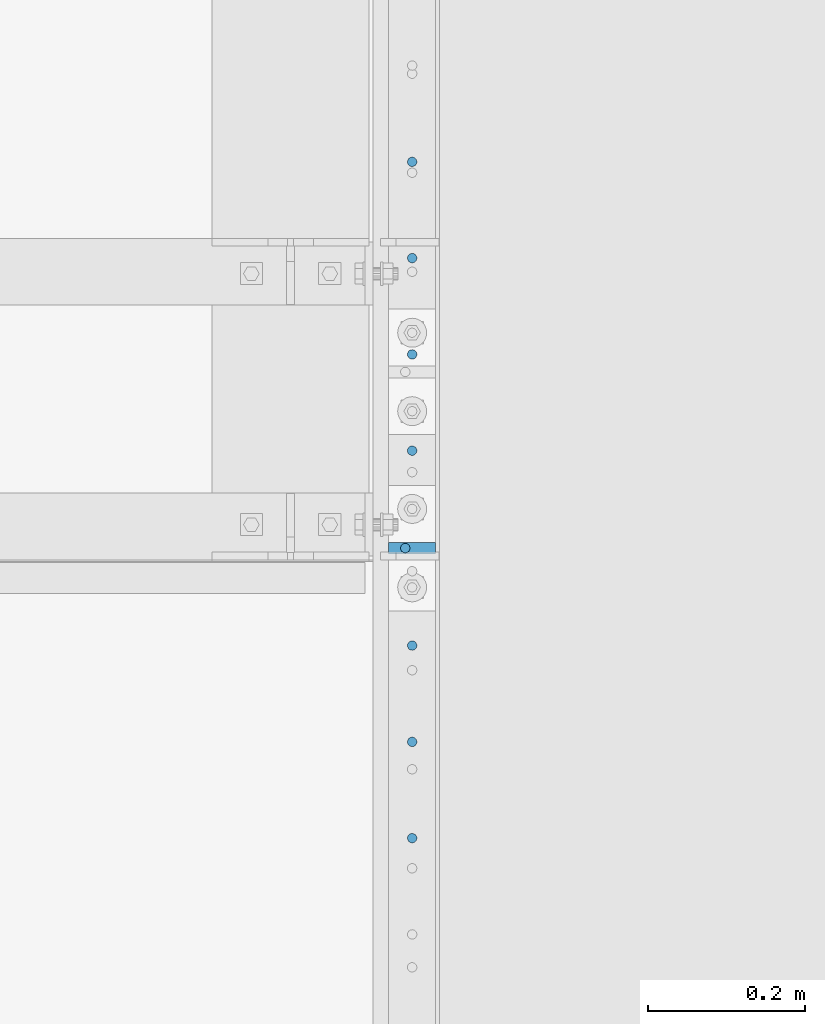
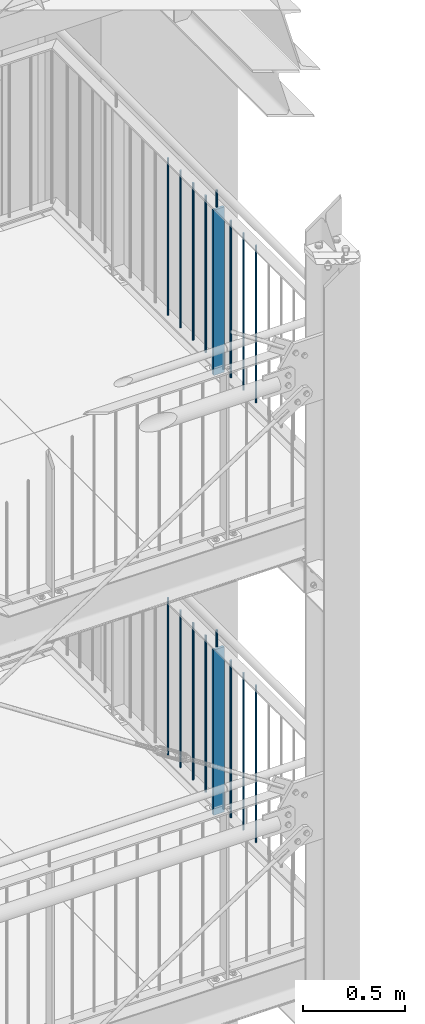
# One storey, part 101 of 831: 18 columns.
"""IFC2X3 building model written with IfcOpenShell, lengths in millimetres."""

from ifc_helpers import new_model, entity, si_unit, converted_unit, frame, origin, origin_with_axes, origin_2d, place, context, project, spatial, rectangle, circle, extrude, clip, halfspace, material, element, save


model = new_model("IFC2X3")

# Units and contexts
model_context = context("Model", 3, precision=1e-09, world=origin_with_axes())
ifc_project = project(units=[si_unit("LENGTHUNIT", "METRE", prefix="MILLI"), si_unit("AREAUNIT", "SQUARE_METRE"), si_unit("VOLUMEUNIT", "CUBIC_METRE"), converted_unit("PLANEANGLEUNIT", "DEGREE", entity("IfcPlaneAngleMeasure", 0.01745329), si_unit("PLANEANGLEUNIT", "RADIAN"), dimensions=[0, 0, 0, 0, 0, 0, 0])], contexts=[model_context])

# Site, building, storey
site_placement = place(None, origin_with_axes())
site = spatial("IfcSite", under=ifc_project, at=site_placement, Name="Site", CompositionType="ELEMENT")
building_placement = place(site_placement, origin_with_axes())
building = spatial("IfcBuilding", under=site, at=building_placement, Name="Struktur 1", CompositionType="ELEMENT")
storey_placement = place(building_placement, origin_with_axes())
storey = spatial("IfcBuildingStorey", under=building, at=storey_placement, Name="Default Storey", CompositionType="ELEMENT", Elevation=0.0)

# Columns
ifc_material = material(Name="S235JR")
column_1_placement = place(None, frame((9021.713402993, 6244.236186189, 9658.285281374), z_axis=(0.0, 0.0, 1.0), x_axis=(0.0, -1.0, 0.0)))
element("IfcColumn", 1, at=column_1_placement, inside=storey, material=ifc_material, Name="Railing_Picket_Landing#38", ObjectType="Railing_Picket_Landing#38", context=model_context, shape_type="Clipping", body=[
    clip(clip(extrude(circle(Radius=6.0, at=origin_2d()), origin(), (0.0, 0.0, -1.0), 965.770562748), halfspace(frame((6244.236186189, -9021.713402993, -13.486281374), z_axis=(0.0, 0.0, -1.0), x_axis=(0.0, -1.0, 0.0)), True)), halfspace(frame((6244.236186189, -9021.713402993, -952.284281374), z_axis=(0.0, 0.0, 1.0), x_axis=(0.0, 1.0, 0.0)), True)),
])
column_2_placement = place(None, frame((9021.713402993, 6121.48616238, 9658.285281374), z_axis=(0.0, 0.0, 1.0), x_axis=(0.0, -1.0, 0.0)))
element("IfcColumn", 2, at=column_2_placement, inside=storey, material=ifc_material, Name="Railing_Picket_Landing#39", ObjectType="Railing_Picket_Landing#39", context=model_context, shape_type="Clipping", body=[
    clip(clip(extrude(circle(Radius=6.0, at=origin_2d()), origin(), (0.0, 0.0, -1.0), 965.770562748), halfspace(frame((6121.48616238, -9021.713402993, -13.486281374), z_axis=(0.0, 0.0, -1.0), x_axis=(0.0, -1.0, 0.0)), True)), halfspace(frame((6121.48616238, -9021.713402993, -952.284281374), z_axis=(0.0, 0.0, 1.0), x_axis=(0.0, 1.0, 0.0)), True)),
])
column_3_placement = place(None, frame((9021.713402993, 5998.73613857, 9658.285281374), z_axis=(0.0, 0.0, 1.0), x_axis=(0.0, -1.0, 0.0)))
element("IfcColumn", 3, at=column_3_placement, inside=storey, material=ifc_material, Name="Railing_Picket_Landing#40", ObjectType="Railing_Picket_Landing#40", context=model_context, shape_type="Clipping", body=[
    clip(clip(extrude(circle(Radius=6.0, at=origin_2d()), origin(), (0.0, 0.0, -1.0), 965.770562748), halfspace(frame((5998.73613857, -9021.713402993, -13.486281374), z_axis=(0.0, 0.0, -1.0), x_axis=(0.0, -1.0, 0.0)), True)), halfspace(frame((5998.73613857, -9021.713402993, -952.284281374), z_axis=(0.0, 0.0, 1.0), x_axis=(0.0, 1.0, 0.0)), True)),
])
column_4_placement = place(None, frame((9021.713402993, 5875.986114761, 9658.285281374), z_axis=(0.0, 0.0, 1.0), x_axis=(0.0, -1.0, 0.0)))
element("IfcColumn", 4, at=column_4_placement, inside=storey, material=ifc_material, Name="Railing_Picket_Landing#41", ObjectType="Railing_Picket_Landing#41", context=model_context, shape_type="Clipping", body=[
    clip(clip(extrude(circle(Radius=6.0, at=origin_2d()), origin(), (0.0, 0.0, -1.0), 965.770562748), halfspace(frame((5875.986114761, -9021.713402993, -13.486281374), z_axis=(0.0, 0.0, -1.0), x_axis=(0.0, -1.0, 0.0)), True)), halfspace(frame((5875.986114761, -9021.713402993, -952.284281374), z_axis=(0.0, 0.0, 1.0), x_axis=(0.0, 1.0, 0.0)), True)),
])
column_5_placement = place(None, frame((9021.713402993, 5627.486114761, 9658.285281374), z_axis=(0.0, 0.0, 1.0), x_axis=(0.0, -1.0, 0.0)))
element("IfcColumn", 5, at=column_5_placement, inside=storey, material=ifc_material, Name="Railing_Picket_Landing#42", ObjectType="Railing_Picket_Landing#42", context=model_context, shape_type="Clipping", body=[
    clip(clip(extrude(circle(Radius=6.0, at=origin_2d()), origin(), (0.0, 0.0, -1.0), 965.770562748), halfspace(frame((5627.48611476, -9021.713402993, -13.486281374), z_axis=(0.0, 0.0, -1.0), x_axis=(0.0, -1.0, 0.0)), True)), halfspace(frame((5627.48611476, -9021.713402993, -952.284281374), z_axis=(0.0, 0.0, 1.0), x_axis=(0.0, 1.0, 0.0)), True)),
])
column_6_placement = place(None, frame((9021.713402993, 5504.736090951, 9658.285281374), z_axis=(0.0, 0.0, 1.0), x_axis=(0.0, -1.0, 0.0)))
element("IfcColumn", 6, at=column_6_placement, inside=storey, material=ifc_material, Name="Railing_Picket_Landing#43", ObjectType="Railing_Picket_Landing#43", context=model_context, shape_type="Clipping", body=[
    clip(clip(extrude(circle(Radius=6.0, at=origin_2d()), origin(), (0.0, 0.0, -1.0), 965.770562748), halfspace(frame((5504.736090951, -9021.713402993, -13.486281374), z_axis=(0.0, 0.0, -1.0), x_axis=(0.0, -1.0, 0.0)), True)), halfspace(frame((5504.736090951, -9021.713402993, -952.284281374), z_axis=(0.0, 0.0, 1.0), x_axis=(0.0, 1.0, 0.0)), True)),
])
column_7_placement = place(None, frame((9021.713402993, 5381.986067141, 9658.285281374), z_axis=(0.0, 0.0, 1.0), x_axis=(0.0, -1.0, 0.0)))
element("IfcColumn", 7, at=column_7_placement, inside=storey, material=ifc_material, Name="Railing_Picket_Landing#44", ObjectType="Railing_Picket_Landing#44", context=model_context, shape_type="Clipping", body=[
    clip(clip(extrude(circle(Radius=6.0, at=origin_2d()), origin(), (0.0, 0.0, -1.0), 965.770562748), halfspace(frame((5381.986067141, -9021.713402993, -13.486281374), z_axis=(0.0, 0.0, -1.0), x_axis=(0.0, -1.0, 0.0)), True)), halfspace(frame((5381.986067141, -9021.713402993, -952.284281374), z_axis=(0.0, 0.0, 1.0), x_axis=(0.0, 1.0, 0.0)), True)),
])
column_8_placement = place(None, frame((9012.913402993, 5751.736114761, 9763.285281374), z_axis=(0.0, 0.0, 1.0), x_axis=(-1.0, 0.0, 0.0)))
element("IfcColumn", 8, at=column_8_placement, inside=storey, material=ifc_material, Name="Bar#6", ObjectType="Bar#6", context=model_context, shape_type="Clipping", body=[
    clip(clip(extrude(circle(Radius=6.0, at=origin_2d()), origin(), (0.0, 0.0, -1.0), 116.970562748), halfspace(frame((9012.913402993, 5751.73611476, -8.486281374), z_axis=(0.0, 0.0, -1.0), x_axis=(1.0, 0.0, 0.0)), True)), halfspace(frame((9012.913402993, 5751.73611476, -108.484281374), z_axis=(0.0, 0.0, 1.0), x_axis=(-1.0, 0.0, 0.0)), True)),
])
column_9_placement = place(None, frame((9021.713402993, 5751.736114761, 9675.723292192), z_axis=(0.0, 0.0, 1.0), x_axis=(0.0, -1.0, 0.0)))
element("IfcColumn", 9, at=column_9_placement, inside=storey, material=ifc_material, Name="Railing_Post_Landing#6", ObjectType="Railing_Post_Landing#6", context=model_context, shape_type="Clipping", body=[
    clip(clip(extrude(rectangle(XDim=15.0, YDim=60.0, at=origin_2d()), origin(), (0.0, 0.0, -1.0), 1070.646584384), halfspace(frame((5751.73611476, -9021.713402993, -1019.722292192), z_axis=(0.0, 0.0, 1.0), x_axis=(0.0, 1.0, 0.0)), True)), halfspace(frame((5751.73611476, -9021.713402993, -30.924292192), z_axis=(0.0, 0.0, -1.0), x_axis=(0.0, -1.0, 0.0)), True)),
])
column_10_placement = place(None, frame((9021.713402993, 5751.736114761, 12305.223292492), z_axis=(0.0, 0.0, 1.0), x_axis=(0.0, -1.0, 0.0)))
element("IfcColumn", 10, at=column_10_placement, inside=storey, material=ifc_material, Name="Railing_Post_Landing#6", ObjectType="Railing_Post_Landing#6", context=model_context, shape_type="Clipping", body=[
    clip(clip(extrude(rectangle(XDim=15.0, YDim=60.0, at=origin_2d()), origin(), (0.0, 0.0, -1.0), 1070.646584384), halfspace(frame((5751.736114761, -9021.713402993, -1019.722292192), z_axis=(0.0, 0.0, 1.0), x_axis=(0.0, 1.0, 0.0)), True)), halfspace(frame((5751.736114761, -9021.713402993, -30.924292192), z_axis=(0.0, 0.0, -1.0), x_axis=(0.0, -1.0, 0.0)), True)),
])
column_11_placement = place(None, frame((9021.713402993, 6244.236186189, 12287.785281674), z_axis=(0.0, 0.0, 1.0), x_axis=(0.0, -1.0, 0.0)))
element("IfcColumn", 11, at=column_11_placement, inside=storey, material=ifc_material, Name="Railing_Picket_Landing#38", ObjectType="Railing_Picket_Landing#38", context=model_context, shape_type="Clipping", body=[
    clip(clip(extrude(circle(Radius=6.0, at=origin_2d()), origin(), (0.0, 0.0, -1.0), 965.770562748), halfspace(frame((6244.236186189, -9021.713402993, -13.486281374), z_axis=(0.0, 0.0, -1.0), x_axis=(0.0, -1.0, 0.0)), True)), halfspace(frame((6244.236186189, -9021.713402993, -952.284281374), z_axis=(0.0, 0.0, 1.0), x_axis=(0.0, 1.0, 0.0)), True)),
])
column_12_placement = place(None, frame((9021.713402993, 6121.48616238, 12287.785281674), z_axis=(0.0, 0.0, 1.0), x_axis=(0.0, -1.0, 0.0)))
element("IfcColumn", 12, at=column_12_placement, inside=storey, material=ifc_material, Name="Railing_Picket_Landing#39", ObjectType="Railing_Picket_Landing#39", context=model_context, shape_type="Clipping", body=[
    clip(clip(extrude(circle(Radius=6.0, at=origin_2d()), origin(), (0.0, 0.0, -1.0), 965.770562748), halfspace(frame((6121.48616238, -9021.713402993, -13.486281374), z_axis=(0.0, 0.0, -1.0), x_axis=(0.0, -1.0, 0.0)), True)), halfspace(frame((6121.48616238, -9021.713402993, -952.284281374), z_axis=(0.0, 0.0, 1.0), x_axis=(0.0, 1.0, 0.0)), True)),
])
column_13_placement = place(None, frame((9021.713402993, 5998.73613857, 12287.785281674), z_axis=(0.0, 0.0, 1.0), x_axis=(0.0, -1.0, 0.0)))
element("IfcColumn", 13, at=column_13_placement, inside=storey, material=ifc_material, Name="Railing_Picket_Landing#40", ObjectType="Railing_Picket_Landing#40", context=model_context, shape_type="Clipping", body=[
    clip(clip(extrude(circle(Radius=6.0, at=origin_2d()), origin(), (0.0, 0.0, -1.0), 965.770562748), halfspace(frame((5998.73613857, -9021.713402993, -13.486281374), z_axis=(0.0, 0.0, -1.0), x_axis=(0.0, -1.0, 0.0)), True)), halfspace(frame((5998.73613857, -9021.713402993, -952.284281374), z_axis=(0.0, 0.0, 1.0), x_axis=(0.0, 1.0, 0.0)), True)),
])
column_14_placement = place(None, frame((9021.713402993, 5875.986114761, 12287.785281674), z_axis=(0.0, 0.0, 1.0), x_axis=(0.0, -1.0, 0.0)))
element("IfcColumn", 14, at=column_14_placement, inside=storey, material=ifc_material, Name="Railing_Picket_Landing#41", ObjectType="Railing_Picket_Landing#41", context=model_context, shape_type="Clipping", body=[
    clip(clip(extrude(circle(Radius=6.0, at=origin_2d()), origin(), (0.0, 0.0, -1.0), 965.770562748), halfspace(frame((5875.98611476, -9021.713402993, -13.486281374), z_axis=(0.0, 0.0, -1.0), x_axis=(0.0, -1.0, 0.0)), True)), halfspace(frame((5875.98611476, -9021.713402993, -952.284281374), z_axis=(0.0, 0.0, 1.0), x_axis=(0.0, 1.0, 0.0)), True)),
])
column_15_placement = place(None, frame((9021.713402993, 5627.486114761, 12287.785281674), z_axis=(0.0, 0.0, 1.0), x_axis=(0.0, -1.0, 0.0)))
element("IfcColumn", 15, at=column_15_placement, inside=storey, material=ifc_material, Name="Railing_Picket_Landing#42", ObjectType="Railing_Picket_Landing#42", context=model_context, shape_type="Clipping", body=[
    clip(clip(extrude(circle(Radius=6.0, at=origin_2d()), origin(), (0.0, 0.0, -1.0), 965.770562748), halfspace(frame((5627.48611476, -9021.713402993, -13.486281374), z_axis=(0.0, 0.0, -1.0), x_axis=(0.0, -1.0, 0.0)), True)), halfspace(frame((5627.48611476, -9021.713402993, -952.284281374), z_axis=(0.0, 0.0, 1.0), x_axis=(0.0, 1.0, 0.0)), True)),
])
column_16_placement = place(None, frame((9021.713402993, 5504.736090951, 12287.785281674), z_axis=(0.0, 0.0, 1.0), x_axis=(0.0, -1.0, 0.0)))
element("IfcColumn", 16, at=column_16_placement, inside=storey, material=ifc_material, Name="Railing_Picket_Landing#43", ObjectType="Railing_Picket_Landing#43", context=model_context, shape_type="Clipping", body=[
    clip(clip(extrude(circle(Radius=6.0, at=origin_2d()), origin(), (0.0, 0.0, -1.0), 965.770562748), halfspace(frame((5504.736090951, -9021.713402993, -13.486281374), z_axis=(0.0, 0.0, -1.0), x_axis=(0.0, -1.0, 0.0)), True)), halfspace(frame((5504.736090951, -9021.713402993, -952.284281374), z_axis=(0.0, 0.0, 1.0), x_axis=(0.0, 1.0, 0.0)), True)),
])
column_17_placement = place(None, frame((9021.713402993, 5381.986067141, 12287.785281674), z_axis=(0.0, 0.0, 1.0), x_axis=(0.0, -1.0, 0.0)))
element("IfcColumn", 17, at=column_17_placement, inside=storey, material=ifc_material, Name="Railing_Picket_Landing#44", ObjectType="Railing_Picket_Landing#44", context=model_context, shape_type="Clipping", body=[
    clip(clip(extrude(circle(Radius=6.0, at=origin_2d()), origin(), (0.0, 0.0, -1.0), 965.770562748), halfspace(frame((5381.986067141, -9021.713402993, -13.486281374), z_axis=(0.0, 0.0, -1.0), x_axis=(0.0, -1.0, 0.0)), True)), halfspace(frame((5381.986067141, -9021.713402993, -952.284281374), z_axis=(0.0, 0.0, 1.0), x_axis=(0.0, 1.0, 0.0)), True)),
])
column_18_placement = place(None, frame((9012.913402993, 5751.736114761, 12392.785281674), z_axis=(0.0, 0.0, 1.0), x_axis=(-1.0, 0.0, 0.0)))
element("IfcColumn", 18, at=column_18_placement, inside=storey, material=ifc_material, Name="Bar#6", ObjectType="Bar#6", context=model_context, shape_type="Clipping", body=[
    clip(clip(extrude(circle(Radius=6.0, at=origin_2d()), origin(), (0.0, 0.0, -1.0), 116.970562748), halfspace(frame((9012.913402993, 5751.736114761, -8.486281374), z_axis=(0.0, 0.0, -1.0), x_axis=(1.0, 0.0, 0.0)), True)), halfspace(frame((9012.913402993, 5751.736114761, -108.484281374), z_axis=(0.0, 0.0, 1.0), x_axis=(-1.0, 0.0, 0.0)), True)),
])

save(model, "model.ifc")
